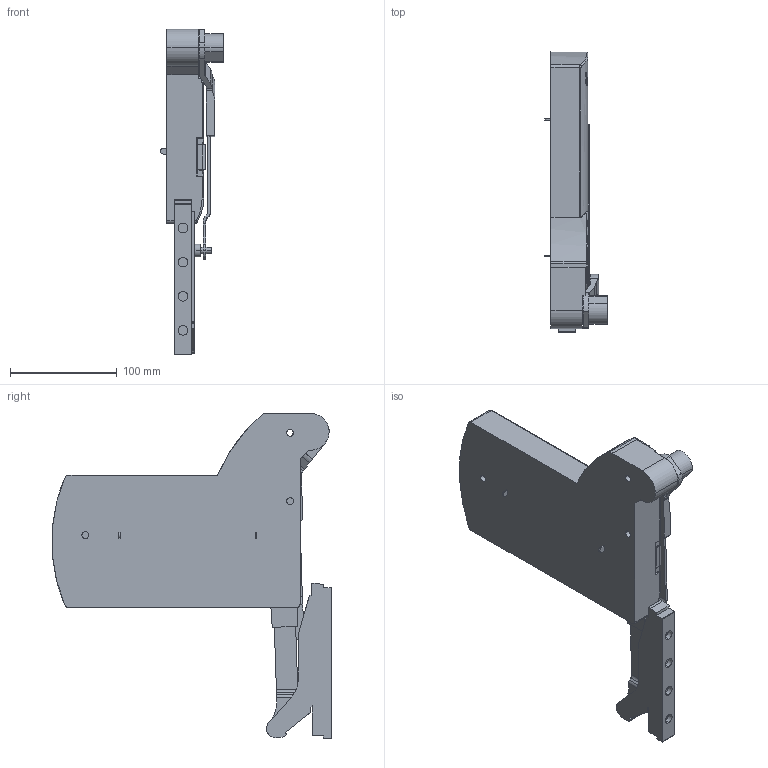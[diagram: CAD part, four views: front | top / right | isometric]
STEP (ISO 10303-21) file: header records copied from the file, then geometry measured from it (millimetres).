
FILE_DESCRIPTION (( 'STEP AP203' ), '1' );
FILE_NAME ('Kinvaro_L-80_Typ1_links_D2806006125~b.step', '2012-05-04T06:30:14', ( 'admin' ), ( 'Hewlett-Packard Company' ), 'SwSTEP 2.0', 'SolidWorks 2011', '' );
FILE_SCHEMA (( 'CONFIG_CONTROL_DESIGN' ));
Length unit declared in the file: millimetre
Products named in the file (1): Kinvaro_L-80_Typ1_links_D2806006125~b
Bounding box: 59 x 262.07 x 305 mm (x, y, z)
Volume: 1197323.9 mm3; surface area: 132772.7 mm2
Topology: 1 solids, 1 shells, 607 faces, 1684 edges, 1097 vertices
Faces by surface type: cylinder 329, plane 239, bspline 19, torus 18, sphere 2
Entity records: 20362 total; most frequent: CARTESIAN_POINT 4847, ORIENTED_EDGE 3354, DIRECTION 3185, EDGE_CURVE 1677, AXIS2_PLACEMENT_3D 1145, VERTEX_POINT 1095, LINE 895, VECTOR 895
